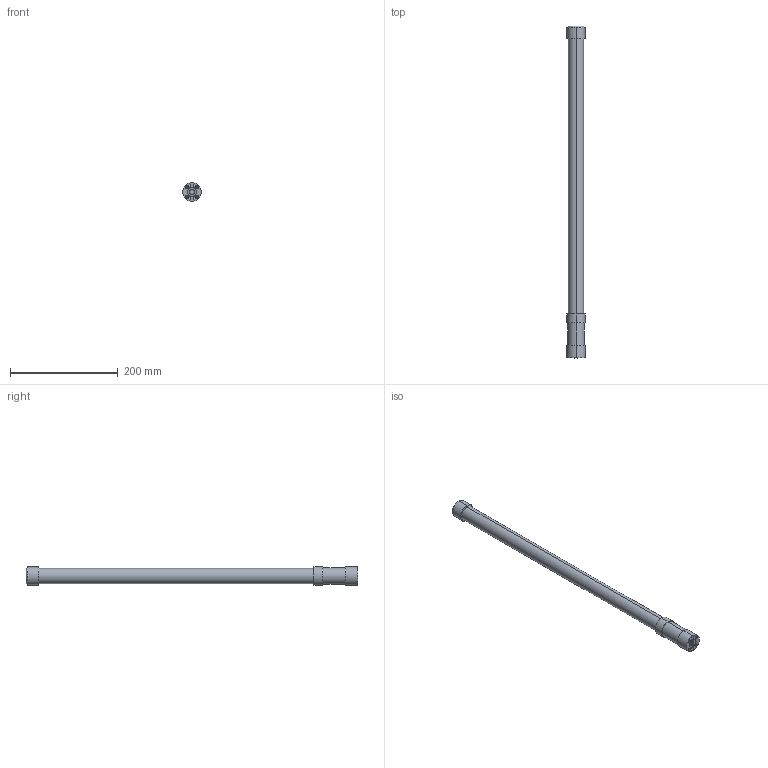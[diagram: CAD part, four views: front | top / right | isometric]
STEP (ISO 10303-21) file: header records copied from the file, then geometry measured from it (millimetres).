
FILE_DESCRIPTION (( 'STEP AP214' ), '1' );
FILE_NAME ('ANT-2.4-OM-CM-01-N assy.STEP', '2019-03-05T16:19:51', ( '' ), ( '' ), 'SwSTEP 2.0', 'SolidWorks 2018', '' );
FILE_SCHEMA (( 'AUTOMOTIVE_DESIGN' ));
Length unit declared in the file: millimetre
Products named in the file (1): ANT-2.4-OM-CM-01-N assy
Bounding box: 34.3 x 617 x 34.3 mm (x, y, z)
Volume: 403931.6 mm3; surface area: 59248 mm2
Topology: 1 solids, 1 shells, 55 faces, 126 edges, 74 vertices
Faces by surface type: cylinder 22, cone 18, plane 15
Entity records: 2053 total; most frequent: DIRECTION 292, CARTESIAN_POINT 248, ORIENTED_EDGE 236, EDGE_CURVE 118, AXIS2_PLACEMENT_3D 118, VERTEX_POINT 74, EDGE_LOOP 64, CIRCLE 62
